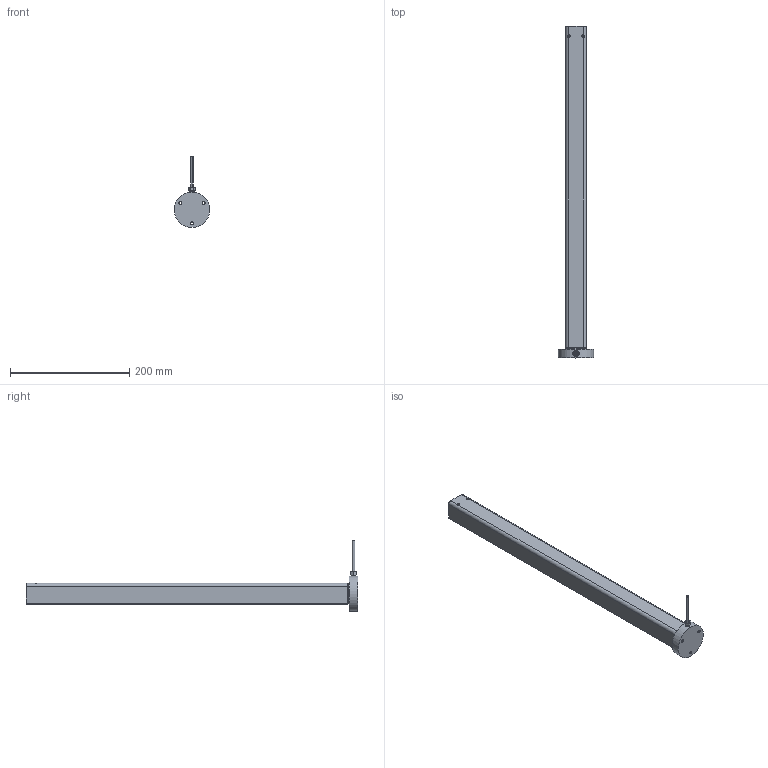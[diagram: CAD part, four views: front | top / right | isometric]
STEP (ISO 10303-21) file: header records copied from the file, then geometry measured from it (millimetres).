
FILE_DESCRIPTION(/* description */ ('Unknown'),/* implementation_level */ '2;1');
FILE_NAME(/* name */ '106.00044 Lineareinheit LD 1440_eingefahren',/* time_stamp */ '2017-11-07T10:43:18+01:00',/* author */ ('Unknown'),/* organization */ ('Unknown'),/* preprocessor_version */ 'ST-DEVELOPER v16.7',/* originating_system */ 'DEX',/* authorisation */ $);
FILE_SCHEMA (('AUTOMOTIVE_DESIGN {1 0 10303 214 3 1 1}'));
Products named in the file (11): 106.00044; 119.00004; 142.00014; 142.00021; 125.00021; 115.00001; 125.00039; 122.00018; 125.00055; 123.00004; 113.00002_70mm
Assembly tree (11 placements, depth 2):
  106.00044
    119.00004
    142.00014  x2
    142.00021
    125.00021
    115.00001
    125.00039
    122.00018
    125.00055
    123.00004
    113.00002_70mm
Bounding box: 59.5 x 557.25 x 119 mm (x, y, z)
Volume: 416006.3 mm3; surface area: 255756.8 mm2
Topology: 10 solids, 10 shells, 815 faces, 1906 edges, 1139 vertices
Faces by surface type: cylinder 277, bspline 224, plane 222, cone 50, torus 29, sphere 13
Full cylindrical faces by diameter (mm): 2.2 x1, 3.5 x2, 4 x7, 4.1 x1, 4.134 x4, 4.2 x1, 4.917 x3, 6.647 x1, 6.917 x2, 8 x2, 9 x1, 13.9 x2, 17.3 x2, 19 x2, 20.8 x4, 21 x1, 25 x1, 30.63 x1, 59.5 x1
Entity records: 76157 total; most frequent: CARTESIAN_POINT 59524, ORIENTED_EDGE 3520, DIRECTION 2681, EDGE_CURVE 1760, VERTEX_POINT 1084, AXIS2_PLACEMENT_3D 1046, FACE_BOUND 938, EDGE_LOOP 936
